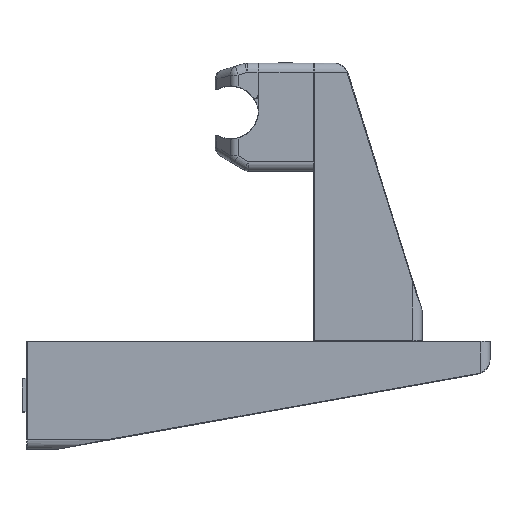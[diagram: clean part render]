
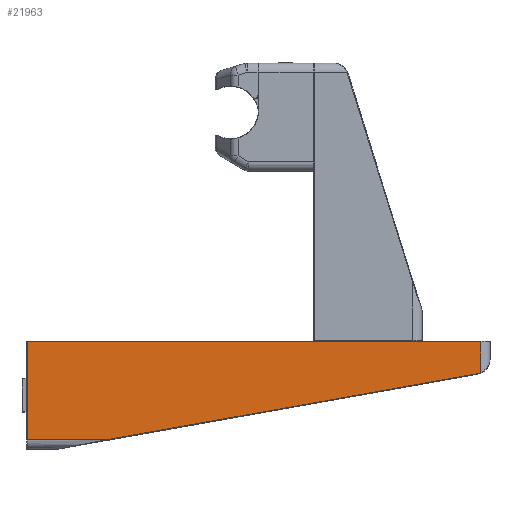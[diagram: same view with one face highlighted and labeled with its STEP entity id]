
A CAD part, front view. The second image highlights one B-rep face of the part: STEP entity #21963.
In plain terms, the highlighted planar face has unit normal (0, -1, 0).
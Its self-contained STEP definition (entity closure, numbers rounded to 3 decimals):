
#980=PLANE('',#23938);
#3346=LINE('',#38642,#5591);
#3347=LINE('',#38646,#5592);
#3352=LINE('',#38678,#5597);
#3353=LINE('',#38680,#5598);
#3354=LINE('',#38683,#5599);
#5591=VECTOR('',#29850,10.);
#5592=VECTOR('',#29855,10.);
#5597=VECTOR('',#29900,10.);
#5598=VECTOR('',#29901,10.);
#5599=VECTOR('',#29904,10.);
#7220=FACE_OUTER_BOUND('',#8616,.T.);
#8616=EDGE_LOOP('',(#20000,#20001,#20002,#20003,#20004,#20005));
#9252=CIRCLE('',#23939,4.8);
#11076=VERTEX_POINT('',#38636);
#11077=VERTEX_POINT('',#38640);
#11078=VERTEX_POINT('',#38644);
#11085=VERTEX_POINT('',#38677);
#11086=VERTEX_POINT('',#38679);
#11087=VERTEX_POINT('',#38681);
#14049=EDGE_CURVE('',#11077,#11076,#3346,.T.);
#14051=EDGE_CURVE('',#11076,#11078,#3347,.T.);
#14066=EDGE_CURVE('',#11085,#11077,#3352,.T.);
#14067=EDGE_CURVE('',#11086,#11085,#3353,.T.);
#14068=EDGE_CURVE('',#11087,#11086,#9252,.T.);
#14069=EDGE_CURVE('',#11078,#11087,#3354,.T.);
#20000=ORIENTED_EDGE('',*,*,#14051,.F.);
#20001=ORIENTED_EDGE('',*,*,#14049,.F.);
#20002=ORIENTED_EDGE('',*,*,#14066,.F.);
#20003=ORIENTED_EDGE('',*,*,#14067,.F.);
#20004=ORIENTED_EDGE('',*,*,#14068,.F.);
#20005=ORIENTED_EDGE('',*,*,#14069,.F.);
#21963=ADVANCED_FACE('',(#7220),#980,.T.);
#23938=AXIS2_PLACEMENT_3D('',#38676,#29898,#29899);
#23939=AXIS2_PLACEMENT_3D('',#38682,#29902,#29903);
#29850=DIRECTION('',(-1.,0.,0.));
#29855=DIRECTION('',(0.,0.,1.));
#29898=DIRECTION('center_axis',(0.,-1.,0.));
#29899=DIRECTION('ref_axis',(0.,0.,-1.));
#29900=DIRECTION('',(0.,0.,-1.));
#29901=DIRECTION('',(0.176,0.,-0.984));
#29902=DIRECTION('center_axis',(0.,1.,0.));
#29903=DIRECTION('ref_axis',(0.957,0.,0.29));
#29904=DIRECTION('',(1.,0.,0.));
#38636=CARTESIAN_POINT('',(0.2,0.,0.2));
#38640=CARTESIAN_POINT('',(32.,0.,0.2));
#38642=CARTESIAN_POINT('',(26.25,0.,0.2));
#38644=CARTESIAN_POINT('',(0.2,0.,147.));
#38646=CARTESIAN_POINT('',(0.2,0.,0.));
#38676=CARTESIAN_POINT('Origin',(35.,0.,0.));
#38677=CARTESIAN_POINT('',(32.,0.,25.662));
#38678=CARTESIAN_POINT('',(32.,0.,0.));
#38679=CARTESIAN_POINT('',(10.539,0.,145.844));
#38680=CARTESIAN_POINT('',(23.168,0.,75.119));
#38681=CARTESIAN_POINT('',(10.177,0.,147.));
#38682=CARTESIAN_POINT('Origin',(5.814,0.,145.));
#38683=CARTESIAN_POINT('',(26.25,0.,147.));
